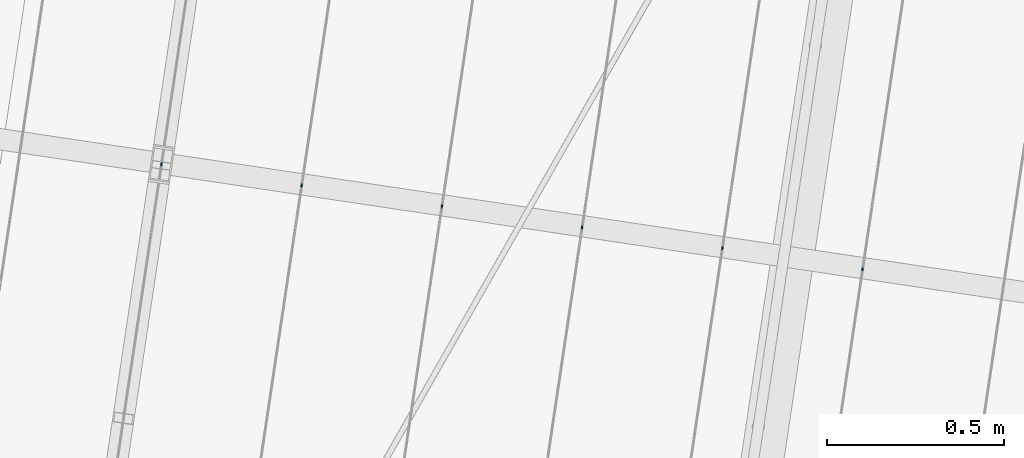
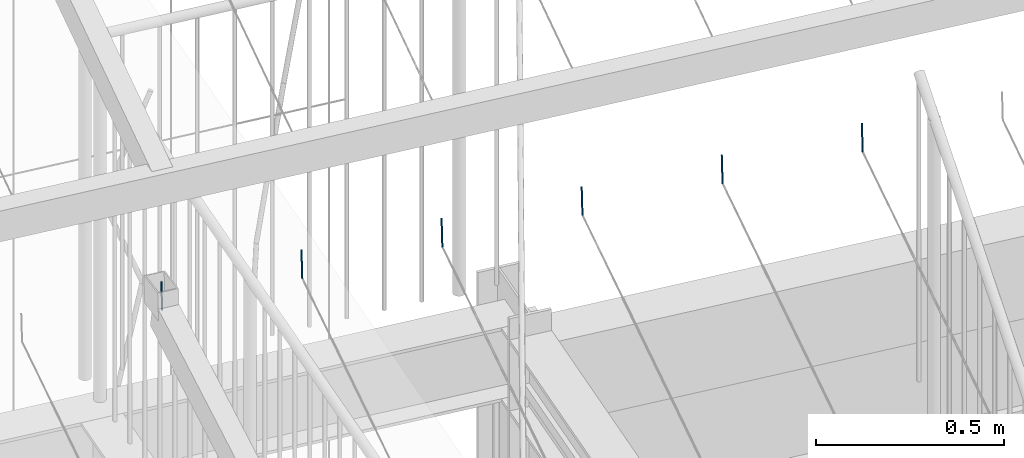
# One storey, part 122 of 142: 6 members, 1 element without a shape of its own.
"""IFC4 building model written with IfcOpenShell, lengths in metres."""

from ifc_helpers import new_model, si_unit, direction, frame, origin_with_axes, place, context, subcontext, project, spatial, circle, extrude, material, material_profile, profile_set, profile_usage, type_object, element, aggregate, save


model = new_model("IFC4")

# Units and contexts
model_context = context("Model", 3, precision=1e-05, world=origin_with_axes(), true_north=direction((0.0, 1.0)))
body_context = subcontext(model_context, "Body", "Model", "MODEL_VIEW")
ifc_project = project(units=[si_unit("VOLUMEUNIT", "CUBIC_METRE"), si_unit("LENGTHUNIT", "METRE"), si_unit("AREAUNIT", "SQUARE_METRE")], contexts=[model_context])

# Site, building, storey
site_placement = place(None, origin_with_axes())
site = spatial("IfcSite", under=ifc_project, at=site_placement, Name="Lares · Rua das Mercês · artigo 4771")
building_placement = place(site_placement, frame((12.0, 10.2, 13.9), z_axis=(0.0, 0.0, 1.0), x_axis=(0.989015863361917, -0.147809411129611, 0.0)))
building = spatial("IfcBuilding", under=site, at=building_placement, Name="Casa Sobreposta")
storey_placement = place(building_placement, origin_with_axes())
storey = spatial("IfcBuildingStorey", under=building, at=storey_placement, Name="00 · Habitação e estacionamento", Elevation=13.9)

# Assembly, members
assembly_placement = place(storey_placement, origin_with_axes())
assembly = element("IfcElementAssembly", 1, at=assembly_placement, inside=storey, Name="Pérgola · prolongamento da estufa 6 m", ObjectType="PERGOLA_GREENHOUSE_EXTENSION", PredefinedType="USERDEFINED")
ifc_material = material(Name="Aço galvanizado / Stahl verzinkt", Category="steel")
ifc_material_profile = material_profile(ifc_material, circle(Radius=0.002))
ifc_profile_set = profile_set([ifc_material_profile], Name="D0.004")
ifc_profile_usage_1 = profile_usage(ifc_profile_set)
member_type = type_object("IfcMemberType", Name="D0.004 / galvanized", PredefinedType="NOTDEFINED", material=ifc_profile_set)
member_1_placement = place(assembly_placement, frame((-3.0, 1.21440957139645, 7.21329402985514), z_axis=(0.0, 0.0686229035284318, 0.997642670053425), x_axis=(1.0, 0.0, 0.0)))
member_1 = element("IfcMember", 2, at=member_1_placement, type_object=member_type, material=ifc_profile_usage_1, Name="Pérgola · fio para trepadeiras", context=body_context, shape_type="SweptSolid", body=[
    extrude(circle(Radius=0.002), origin_with_axes(), (0.0, 0.0, 1.0), 0.0875893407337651),
])
ifc_profile_usage_2 = profile_usage(ifc_profile_set)
member_2_placement = place(assembly_placement, frame((-2.6, 1.21440957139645, 7.21329402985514), z_axis=(0.0, 0.0686229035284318, 0.997642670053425), x_axis=(1.0, 0.0, 0.0)))
member_2 = element("IfcMember", 3, at=member_2_placement, type_object=member_type, material=ifc_profile_usage_2, Name="Pérgola · fio para trepadeiras", context=body_context, shape_type="SweptSolid", body=[
    extrude(circle(Radius=0.002), origin_with_axes(), (0.0, 0.0, 1.0), 0.0875893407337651),
])
ifc_profile_usage_3 = profile_usage(ifc_profile_set)
member_3_placement = place(assembly_placement, frame((-2.2, 1.21440957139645, 7.21329402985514), z_axis=(0.0, 0.0686229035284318, 0.997642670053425), x_axis=(1.0, 0.0, 0.0)))
member_3 = element("IfcMember", 4, at=member_3_placement, type_object=member_type, material=ifc_profile_usage_3, Name="Pérgola · fio para trepadeiras", context=body_context, shape_type="SweptSolid", body=[
    extrude(circle(Radius=0.002), origin_with_axes(), (0.0, 0.0, 1.0), 0.0875893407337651),
])
ifc_profile_usage_4 = profile_usage(ifc_profile_set)
member_4_placement = place(assembly_placement, frame((-1.8, 1.21440957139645, 7.21329402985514), z_axis=(0.0, 0.0686229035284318, 0.997642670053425), x_axis=(1.0, 0.0, 0.0)))
member_4 = element("IfcMember", 5, at=member_4_placement, type_object=member_type, material=ifc_profile_usage_4, Name="Pérgola · fio para trepadeiras", context=body_context, shape_type="SweptSolid", body=[
    extrude(circle(Radius=0.002), origin_with_axes(), (0.0, 0.0, 1.0), 0.0875893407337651),
])
ifc_profile_usage_5 = profile_usage(ifc_profile_set)
member_5_placement = place(assembly_placement, frame((-1.4, 1.21440957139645, 7.21329402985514), z_axis=(0.0, 0.0686229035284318, 0.997642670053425), x_axis=(1.0, 0.0, 0.0)))
member_5 = element("IfcMember", 6, at=member_5_placement, type_object=member_type, material=ifc_profile_usage_5, Name="Pérgola · fio para trepadeiras", context=body_context, shape_type="SweptSolid", body=[
    extrude(circle(Radius=0.002), origin_with_axes(), (0.0, 0.0, 1.0), 0.0875893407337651),
])
ifc_profile_usage_6 = profile_usage(ifc_profile_set)
member_6_placement = place(assembly_placement, frame((-0.999999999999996, 1.21440957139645, 7.21329402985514), z_axis=(0.0, 0.0686229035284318, 0.997642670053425), x_axis=(1.0, 0.0, 0.0)))
member_6 = element("IfcMember", 7, at=member_6_placement, type_object=member_type, material=ifc_profile_usage_6, Name="Pérgola · fio para trepadeiras", context=body_context, shape_type="SweptSolid", body=[
    extrude(circle(Radius=0.002), origin_with_axes(), (0.0, 0.0, 1.0), 0.0875893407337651),
])
aggregate(assembly, [member_1, member_2, member_3, member_4, member_5, member_6])

save(model, "model.ifc")
